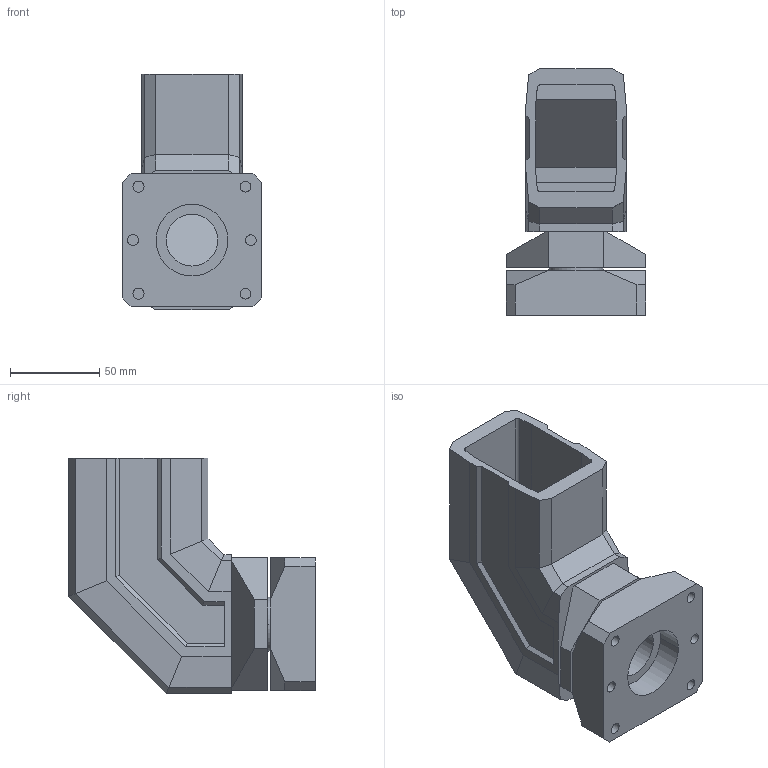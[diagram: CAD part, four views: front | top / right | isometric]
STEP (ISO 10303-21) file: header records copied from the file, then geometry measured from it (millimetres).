
FILE_DESCRIPTION((''),'1');
FILE_NAME('1','2001-04-17T',('jlue'),(''),'PRO/ENGINEER BY PARAMETRIC TECHNOLOGY CORPORATION, 9846','PRO/ENGINEER BY PARAMETRIC TECHNOLOGY CORPORATION, 9846','');
FILE_SCHEMA(('CONFIG_CONTROL_DESIGN'));
Length unit declared in the file: inch
Products named in the file (1): 1
Bounding box: 77.98 x 138.05 x 131.95 mm (x, y, z)
Surface area: 96900.4 mm2 (no closed solid volume)
Topology: 0 solids, 0 shells, 126 faces, 659 edges, 668 vertices
Faces by surface type: plane 104, cylinder 22
Entity records: 3323 total; most frequent: COMPOSITE_CURVE_SEGMENT 650, DIRECTION 638, CARTESIAN_POINT 462, TRIMMED_CURVE 336, VECTOR 286, LINE 286, AXIS2_PLACEMENT_3D 176, CURVE_BOUNDED_SURFACE 126
